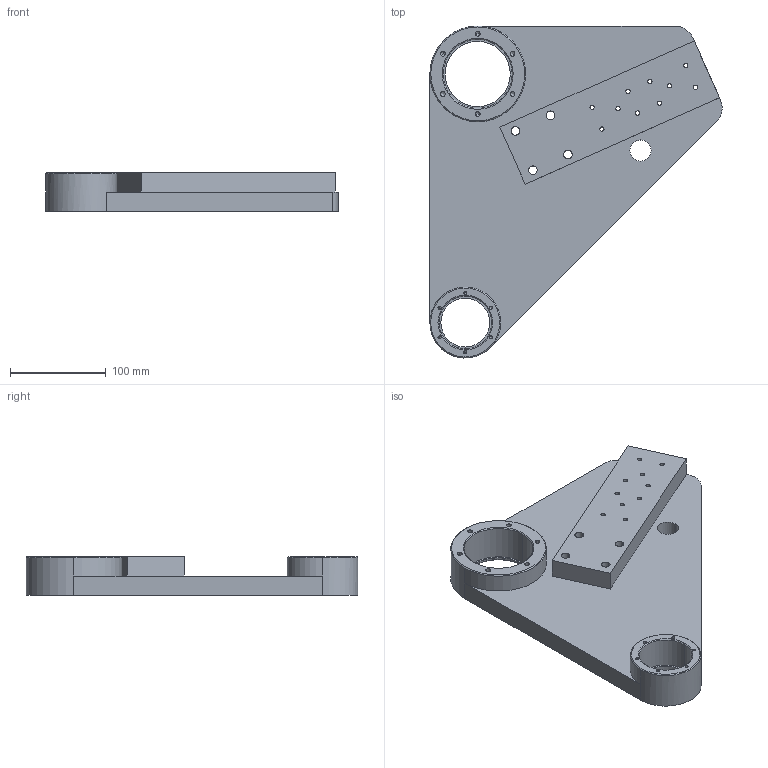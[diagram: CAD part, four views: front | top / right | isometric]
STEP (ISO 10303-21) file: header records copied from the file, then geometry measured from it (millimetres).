
FILE_DESCRIPTION (( 'STEP AP203' ), '1' );
FILE_NAME ('YWSD-2026-03-01-05-01=001 打磨机构固定板.STEP', '2026-07-24T07:34:31', ( 'Windows 用户' ), ( '' ), 'SwSTEP 2.0', 'SolidWorks 2024', '' );
FILE_SCHEMA (( 'CONFIG_CONTROL_DESIGN' ));
Length unit declared in the file: millimetre
Products named in the file (1): YWSD-2026-03-01-05-01=001 打磨机构固定板
Bounding box: 305.26 x 346.67 x 40 mm (x, y, z)
Volume: 1666714.5 mm3; surface area: 205873 mm2
Topology: 1 solids, 1 shells, 163 faces, 395 edges, 238 vertices
Faces by surface type: cylinder 97, cone 38, plane 28
Entity records: 4796 total; most frequent: DIRECTION 909, CARTESIAN_POINT 773, ORIENTED_EDGE 742, AXIS2_PLACEMENT_3D 374, EDGE_CURVE 371, VERTEX_POINT 238, EDGE_LOOP 225, CIRCLE 210
